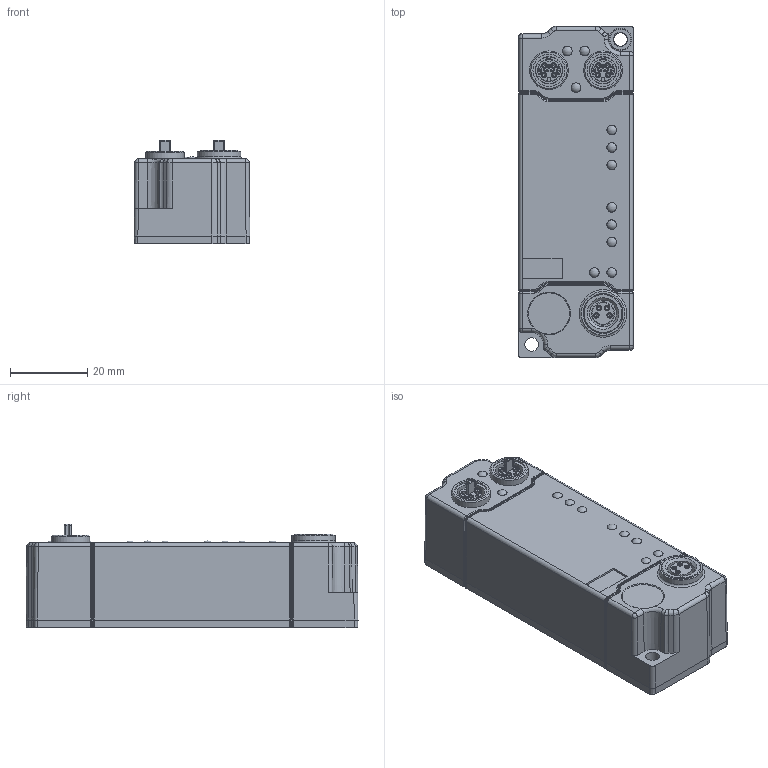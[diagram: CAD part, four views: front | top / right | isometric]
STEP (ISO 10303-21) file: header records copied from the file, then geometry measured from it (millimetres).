
FILE_DESCRIPTION(/* description */ (''),/* implementation_level */ '2;1');
FILE_NAME(/* name */ 'C:\_Vault-Workspace\CAD-Daten\IO\EPP\EPP9xxx\EPP90xx\EPP9022\EPP9022 download.stp',/* time_stamp */ '2019-08-07T11:36:00+02:00',/* author */ ('LarsSo'),/* organization */ (''),/* preprocessor_version */ 'ST-DEVELOPER v17.2',/* originating_system */ 'Autodesk Inventor 2019',/* authorisation */ '');
FILE_SCHEMA (('CONFIG_CONTROL_DESIGN'));
Length unit declared in the file: millimetre
Products named in the file (1): EPP9022 download
Bounding box: 30 x 86 x 26.8 mm (x, y, z)
Volume: 54236.2 mm3; surface area: 13569.6 mm2
Topology: 1 solids, 1 shells, 868 faces, 2087 edges, 1290 vertices
Faces by surface type: plane 307, cylinder 270, torus 90, bspline 84, sphere 63, cone 54
Full cylindrical faces by diameter (mm): 1.1 x12, 1.5 x12, 1.6 x12, 2.4 x11, 2.5 x11, 3.5 x1, 3.545 x1, 3.7 x1, 5.6 x2, 5.8 x1, 6 x1, 6.2 x1, 6.9 x2, 7 x1, 7.1 x2, 7.6 x1, 8.1 x1, 8.3 x2, 10 x2, 10.2 x1, 10.3 x1, 11.3 x1
Entity records: 27874 total; most frequent: CARTESIAN_POINT 6697, DIRECTION 4333, ORIENTED_EDGE 4150, EDGE_CURVE 2075, AXIS2_PLACEMENT_3D 1682, VERTEX_POINT 1290, LINE 969, VECTOR 969
